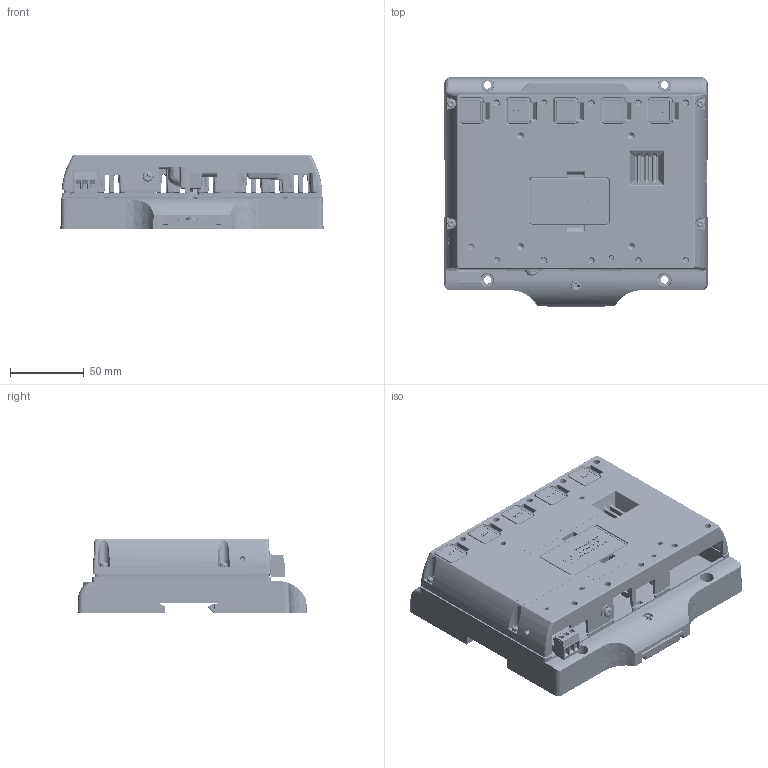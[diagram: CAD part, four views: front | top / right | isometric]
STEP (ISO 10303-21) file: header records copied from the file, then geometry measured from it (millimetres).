
FILE_DESCRIPTION(/* description */ ('Unknown'),/* implementation_level */ '2;1');
FILE_NAME(/* name */ 'GRAC00C5',/* time_stamp */ '2017-10-11T11:54:47-04:00',/* author */ ('Unknown'),/* organization */ ('Unknown'),/* preprocessor_version */ 'ST-DEVELOPER v16.7',/* originating_system */ 'DEX',/* authorisation */ $);
FILE_SCHEMA (('AUTOMOTIVE_DESIGN {1 0 10303 214 3 1 1}'));
Products named in the file (44): GRAC00C5; CV547300; LB05499A; CV546900; PB04922A; CNZT0060; SCIOLD40; SCIOLD42; SCIOLD41; HWSXCS20; CV500400_REAR COVER, 7 INCH HMI; PB05230C-released; GK005128_7 Tacoma Module Insulator Strip; HWM05015; HWM05465; HWSMCZ08; HWSMCZ08_SCREW; HWWLE001; HWPC1200; CV547000; HWRING04; HWSMEZ08; HWSMEP08; HWWLE000; HWM05404; COMMS LABEL - G07; HWM05062; HWPC0900; HWWFL004; GK522500; GK501400_SW; SSLB0048; power supply label; GK538900; HWSMEP12; BAL3R006; SSLB0033; SSLB0004; HWSMCZ12; HWSMCZ12_SCREW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
Assembly tree (58 placements, depth 3):
  GRAC00C5
    CV547300
    LB05499A
    CV546900
    PB04922A
      PB04922A
      CNZT0060
      SCIOLD40
      SCIOLD42
      SCIOLD41
    HWSXCS20  x4
    CV500400_REAR COVER, 7 INCH HMI
    PB05230C-released
    GK005128_7 Tacoma Module Insulator Strip
    HWM05015
    HWM05465
    HWSMCZ08  x3
      HWSMCZ08_SCREW
      HWWLE001
    HWPC1200  x2
    CV547000
    HWRING04
    HWSMEZ08
      HWSMEP08
      HWWLE000
    HWM05404
    COMMS LABEL - G07
    HWM05062  x5
    HWPC0900
    HWWFL004
    GK522500
    GK501400_SW
    SSLB0048
    power supply label
    GK538900  x3
    HWSMEP12  x2
    BAL3R006
    SSLB0033
    SSLB0004
    HWSMCZ12  x2
      HWSMCZ12_SCREW
      HWWLE001
    WRPP006A
    M4885 RevG-2014-04-23
    CNTP0300
Bounding box: 178.2 x 155.07 x 50.43 mm (x, y, z)
Volume: 293334.3 mm3; surface area: 237185.9 mm2
Topology: 53 solids, 55 shells, 10857 faces, 27542 edges, 16757 vertices
Faces by surface type: plane 4094, cylinder 3265, bspline 2296, sphere 495, cone 441, torus 266
Full cylindrical faces by diameter (mm): 1.651 x2, 2.06 x4, 2.156 x10, 2.261 x6, 2.387 x92, 2.54 x6, 2.647 x2, 2.705 x13, 2.845 x93, 3.048 x5, 3.2 x2, 3.3 x4, 3.505 x3, 3.696 x1, 3.962 x1, 5.385 x5, 5.41 x4, 6 x1, 6.35 x1, 6.68 x3, 7.642 x2, 7.7 x1, 9.525 x1, 19.939 x1
Entity records: 320615 total; most frequent: CARTESIAN_POINT 98351, ORIENTED_EDGE 44604, DIRECTION 41001, EDGE_CURVE 22302, AXIS2_PLACEMENT_3D 14631, VERTEX_POINT 13770, LINE 11739, VECTOR 11739
